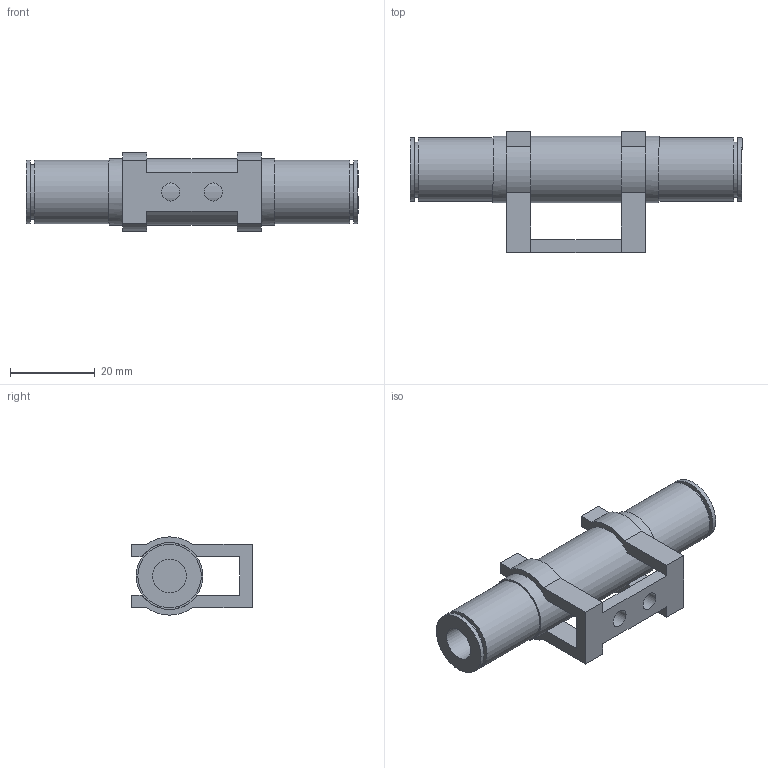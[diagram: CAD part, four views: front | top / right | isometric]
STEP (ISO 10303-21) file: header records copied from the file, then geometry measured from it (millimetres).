
FILE_DESCRIPTION(('STEP AP203'),'1');
FILE_NAME('BCVL-1008-C.stp','2025-07-18T01:00:15',(' '),(' '),'Spatial InterOp 3D',' ',' ');
FILE_SCHEMA(('CONFIG_CONTROL_DESIGN'));
Length unit declared in the file: millimetre
Products named in the file (1): 1
Bounding box: 78.5 x 28.6 x 18.5 mm (x, y, z)
Volume: 15005.8 mm3; surface area: 7376.5 mm2
Topology: 1 solids, 1 shells, 55 faces, 137 edges, 90 vertices
Faces by surface type: plane 40, cylinder 15
Full cylindrical faces by diameter (mm): 4.3 x2, 8 x2, 13 x2, 15 x4, 15.8 x1
Entity records: 1646 total; most frequent: DIRECTION 276, CARTESIAN_POINT 272, ORIENTED_EDGE 252, EDGE_CURVE 126, AXIS2_PLACEMENT_3D 94, VERTEX_POINT 90, LINE 88, VECTOR 88
